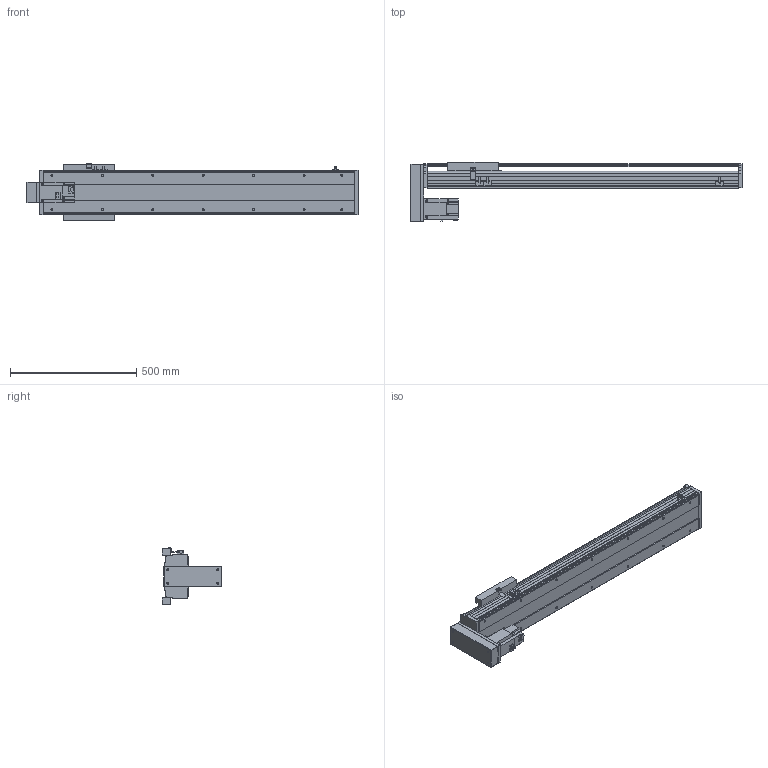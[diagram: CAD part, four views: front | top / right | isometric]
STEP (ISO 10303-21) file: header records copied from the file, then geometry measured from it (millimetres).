
FILE_DESCRIPTION( ( 'STEP AP214' ), '1' );
FILE_NAME( 'x:/temp/worker_27/temp/exporttempdir_6708_427_QmwFs/format_0/PSS200-L10-S900-BM-T75-C1-N(0).stp', '2022-06-06T02:45:05', ( 'License CC BY-ND 4.0' ), ( 'CADENAS' ), ' ', 'PARTsolutions', ' ' );
FILE_SCHEMA( ( 'AUTOMOTIVE_DESIGN { 1 0 10303 214 1 1 1 1 }' ) );
Length unit declared in the file: millimetre
Products named in the file (8): PSS200-L10-S900-BM-T75-C1-N(0); _PSS200-S900-BM-C1-N_body; _PSS200-N_Q; _PSS200-BM-C1-N_sl; _PSS200-N_sensor; _PSS200BM-N_h; _T75-p1; _PSS200-S900-BM-N_S
Assembly tree (9 placements, depth 2):
  PSS200-L10-S900-BM-T75-C1-N(0)
    _PSS200-S900-BM-C1-N_body
    _PSS200-N_Q
    _PSS200-BM-C1-N_sl
    _PSS200-N_sensor  x3
    _PSS200BM-N_h
    _T75-p1
    _PSS200-S900-BM-N_S
Bounding box: 1316.85 x 234.45 x 223.86 mm (x, y, z)
Volume: 8806816 mm3; surface area: 2085035.8 mm2
Topology: 9 solids, 9 shells, 602 faces, 1613 edges, 1070 vertices
Faces by surface type: plane 452, cylinder 124, cone 22, sphere 4
Full cylindrical faces by diameter (mm): 4 x2, 4.5 x4, 6 x7, 6.647 x18, 7.4 x4, 8 x8, 10 x6, 25 x1, 40 x1, 67 x1
Entity records: 21089 total; most frequent: CARTESIAN_POINT 2917, DIRECTION 2767, ORIENTED_EDGE 2734, EDGE_CURVE 1367, LINE 1071, VECTOR 1071, VERTEX_POINT 950, AXIS2_PLACEMENT_3D 848
